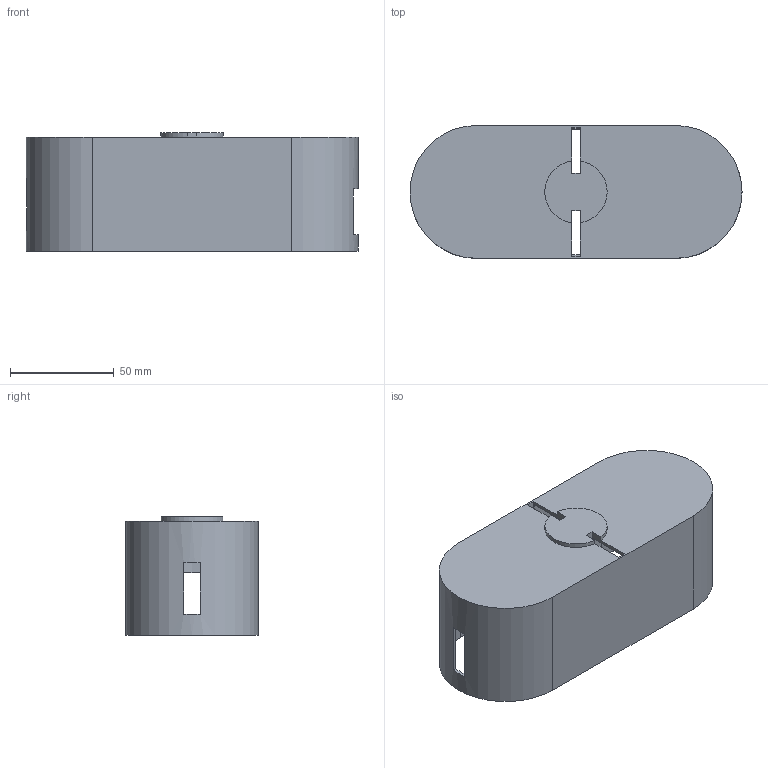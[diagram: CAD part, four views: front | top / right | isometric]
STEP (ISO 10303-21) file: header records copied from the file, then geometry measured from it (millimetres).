
FILE_DESCRIPTION(('FreeCAD Model'),'2;1');
FILE_NAME('Open CASCADE Shape Model','2026-10-22T12:49:28',('FreeCAD'),( 'FreeCAD'),'Open CASCADE STEP processor 8.0','FreeCAD','Unknown');
FILE_SCHEMA(('AUTOMOTIVE_DESIGN { 1 0 10303 214 1 1 1 1 }'));
Length unit declared in the file: millimetre
Products named in the file (1): Open CASCADE STEP translator 8.0 2
Bounding box: 160 x 64 x 57 mm (x, y, z)
Volume: 48049.5 mm3; surface area: 59634.1 mm2
Topology: 1 solids, 1 shells, 32 faces, 106 edges, 74 vertices
Faces by surface type: plane 26, cylinder 6
Entity records: 1206 total; most frequent: CARTESIAN_POINT 213, ORIENTED_EDGE 212, DIRECTION 202, EDGE_CURVE 106, LINE 76, VECTOR 76, VERTEX_POINT 74, AXIS2_PLACEMENT_3D 63
